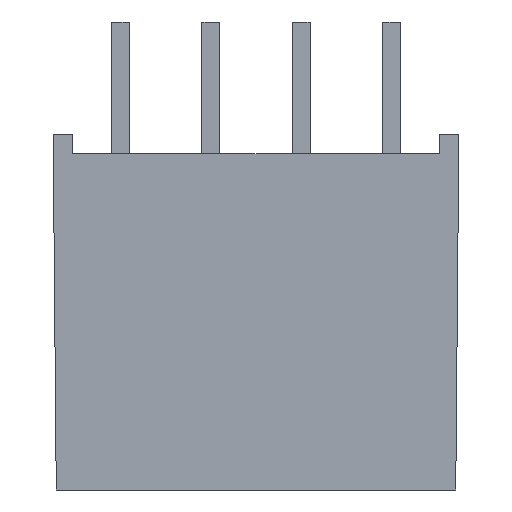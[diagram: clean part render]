
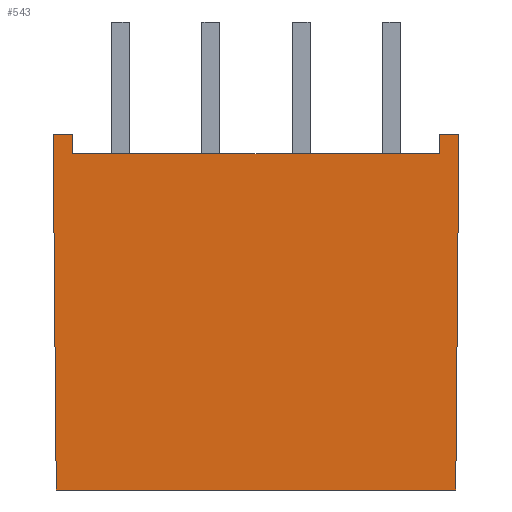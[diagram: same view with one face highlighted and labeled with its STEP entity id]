
A CAD part, front view. The second image highlights one B-rep face of the part: STEP entity #543.
In plain terms, the highlighted planar face has unit normal (0, -1, -0.009).
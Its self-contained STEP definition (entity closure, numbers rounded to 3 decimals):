
#41=FACE_OUTER_BOUND('',#75,.T.);
#75=EDGE_LOOP('',(#451,#452,#453,#454,#455,#456,#457,#458));
#134=LINE('',#826,#206);
#135=LINE('',#829,#207);
#138=LINE('',#835,#210);
#139=LINE('',#837,#211);
#140=LINE('',#839,#212);
#141=LINE('',#841,#213);
#142=LINE('',#843,#214);
#143=LINE('',#844,#215);
#206=VECTOR('',#678,0.55);
#207=VECTOR('',#681,10.3);
#210=VECTOR('',#686,0.55);
#211=VECTOR('',#687,0.55);
#212=VECTOR('',#688,10.001);
#213=VECTOR('',#689,11.225);
#214=VECTOR('',#690,10.001);
#215=VECTOR('',#691,0.55);
#259=VERTEX_POINT('',#819);
#262=VERTEX_POINT('',#824);
#263=VERTEX_POINT('',#828);
#265=VERTEX_POINT('',#834);
#266=VERTEX_POINT('',#836);
#267=VERTEX_POINT('',#838);
#268=VERTEX_POINT('',#840);
#269=VERTEX_POINT('',#842);
#326=EDGE_CURVE('',#259,#262,#134,.T.);
#327=EDGE_CURVE('',#263,#259,#135,.T.);
#330=EDGE_CURVE('',#265,#263,#138,.T.);
#331=EDGE_CURVE('',#262,#266,#139,.T.);
#332=EDGE_CURVE('',#267,#266,#140,.F.);
#333=EDGE_CURVE('',#267,#268,#141,.F.);
#334=EDGE_CURVE('',#268,#269,#142,.F.);
#335=EDGE_CURVE('',#269,#265,#143,.T.);
#451=ORIENTED_EDGE('',*,*,#330,.T.);
#452=ORIENTED_EDGE('',*,*,#327,.T.);
#453=ORIENTED_EDGE('',*,*,#326,.T.);
#454=ORIENTED_EDGE('',*,*,#331,.T.);
#455=ORIENTED_EDGE('',*,*,#332,.F.);
#456=ORIENTED_EDGE('',*,*,#333,.T.);
#457=ORIENTED_EDGE('',*,*,#334,.T.);
#458=ORIENTED_EDGE('',*,*,#335,.T.);
#513=PLANE('',#575);
#543=ADVANCED_FACE('',(#41),#513,.T.);
#575=AXIS2_PLACEMENT_3D('',#833,#684,#685);
#678=DIRECTION('',(0.,-0.009,1.));
#681=DIRECTION('',(-1.,0.,0.));
#684=DIRECTION('center_axis',(0.,-1.,-0.009));
#685=DIRECTION('ref_axis',(0.,0.009,-1.));
#686=DIRECTION('',(0.,0.009,-1.));
#687=DIRECTION('',(-1.,0.,0.));
#688=DIRECTION('',(0.009,0.009,-1.));
#689=DIRECTION('',(-1.,0.,0.));
#690=DIRECTION('',(-0.009,0.009,-1.));
#691=DIRECTION('',(-1.,0.,0.));
#819=CARTESIAN_POINT('',(-5.15,-3.495,9.45));
#824=CARTESIAN_POINT('',(-5.15,-3.5,10.));
#826=CARTESIAN_POINT('',(-5.15,-3.456,5.));
#828=CARTESIAN_POINT('',(5.15,-3.495,9.45));
#829=CARTESIAN_POINT('',(0.275,-3.495,9.45));
#833=CARTESIAN_POINT('Origin',(5.7,-3.413,0.));
#834=CARTESIAN_POINT('',(5.15,-3.5,10.));
#835=CARTESIAN_POINT('',(5.15,-3.454,4.725));
#836=CARTESIAN_POINT('',(-5.7,-3.5,10.));
#837=CARTESIAN_POINT('',(-5.7,-3.5,10.));
#838=CARTESIAN_POINT('',(-5.613,-3.413,0.));
#839=CARTESIAN_POINT('',(-5.612,-3.412,-0.049));
#840=CARTESIAN_POINT('',(5.613,-3.413,0.));
#841=CARTESIAN_POINT('',(2.85,-3.413,0.));
#842=CARTESIAN_POINT('',(5.7,-3.5,10.));
#843=CARTESIAN_POINT('',(5.612,-3.412,-0.029));
#844=CARTESIAN_POINT('',(-5.7,-3.5,10.));
